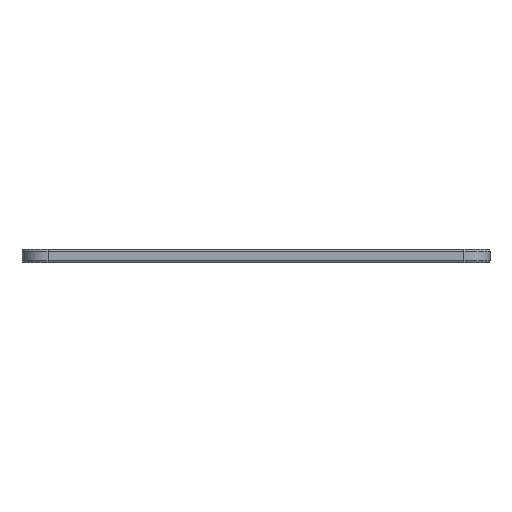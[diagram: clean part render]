
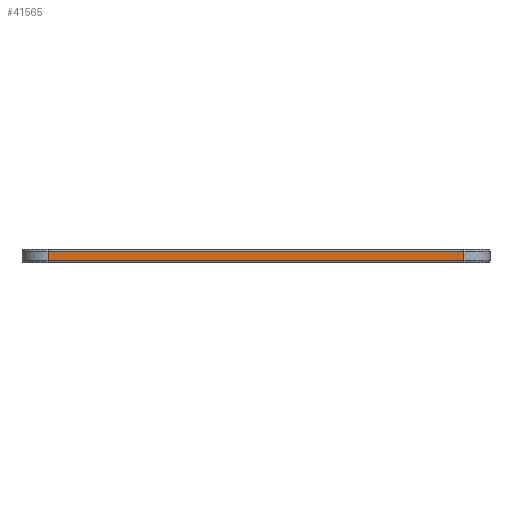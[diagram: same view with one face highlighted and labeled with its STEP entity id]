
A CAD part, front view. The second image highlights one B-rep face of the part: STEP entity #41565.
In plain terms, the highlighted planar face has unit normal (0, -1, 0).
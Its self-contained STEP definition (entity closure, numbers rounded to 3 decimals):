
#3447 = PLANE ( 'NONE',  #50552 ) ;
#6274 = EDGE_CURVE ( 'NONE', #24435, #7827, #60000, .T. ) ;
#6681 = CARTESIAN_POINT ( 'NONE',  ( 23.99, -42.8, 0.75 ) ) ;
#7827 = VERTEX_POINT ( 'NONE', #57644 ) ;
#8350 = LINE ( 'NONE', #51186, #44888 ) ;
#9846 = VECTOR ( 'NONE', #63839, 1000. ) ;
#11017 = DIRECTION ( 'NONE',  ( 1., 0., 0. ) ) ;
#16191 = VECTOR ( 'NONE', #21701, 1000. ) ;
#16434 = CARTESIAN_POINT ( 'NONE',  ( -23.99, -42.8, 0.75 ) ) ;
#18349 = VERTEX_POINT ( 'NONE', #39786 ) ;
#20280 = CARTESIAN_POINT ( 'NONE',  ( -23.99, -42.8, -0.55 ) ) ;
#20918 = EDGE_LOOP ( 'NONE', ( #52709, #39593, #56160, #61844 ) ) ;
#21624 = VECTOR ( 'NONE', #57521, 1000. ) ;
#21701 = DIRECTION ( 'NONE',  ( 0., 0., -1. ) ) ;
#24435 = VERTEX_POINT ( 'NONE', #38619 ) ;
#24825 = EDGE_CURVE ( 'NONE', #7827, #44251, #29697, .T. ) ;
#26403 = LINE ( 'NONE', #6681, #21624 ) ;
#28208 = CARTESIAN_POINT ( 'NONE',  ( -23.99, -42.8, 0.55 ) ) ;
#28714 = DIRECTION ( 'NONE',  ( -1., 0., 0. ) ) ;
#29697 = LINE ( 'NONE', #16434, #16191 ) ;
#34451 = DIRECTION ( 'NONE',  ( 0., 1., 0. ) ) ;
#38619 = CARTESIAN_POINT ( 'NONE',  ( 23.99, -42.8, 0.55 ) ) ;
#39593 = ORIENTED_EDGE ( 'NONE', *, *, #53512, .T. ) ;
#39786 = CARTESIAN_POINT ( 'NONE',  ( 23.99, -42.8, -0.55 ) ) ;
#41565 = ADVANCED_FACE ( 'NONE', ( #46579 ), #3447, .F. ) ;
#44251 = VERTEX_POINT ( 'NONE', #20280 ) ;
#44888 = VECTOR ( 'NONE', #11017, 1000. ) ;
#46579 = FACE_OUTER_BOUND ( 'NONE', #20918, .T. ) ;
#46892 = EDGE_CURVE ( 'NONE', #18349, #24435, #26403, .T. ) ;
#50552 = AXIS2_PLACEMENT_3D ( 'NONE', #54708, #34451, #28714 ) ;
#51186 = CARTESIAN_POINT ( 'NONE',  ( -26.99, -42.8, -0.55 ) ) ;
#52709 = ORIENTED_EDGE ( 'NONE', *, *, #24825, .T. ) ;
#53512 = EDGE_CURVE ( 'NONE', #44251, #18349, #8350, .T. ) ;
#54708 = CARTESIAN_POINT ( 'NONE',  ( -26.99, -42.8, 0.75 ) ) ;
#56160 = ORIENTED_EDGE ( 'NONE', *, *, #46892, .T. ) ;
#57521 = DIRECTION ( 'NONE',  ( 0., 0., 1. ) ) ;
#57644 = CARTESIAN_POINT ( 'NONE',  ( -23.99, -42.8, 0.55 ) ) ;
#60000 = LINE ( 'NONE', #28208, #9846 ) ;
#61844 = ORIENTED_EDGE ( 'NONE', *, *, #6274, .T. ) ;
#63839 = DIRECTION ( 'NONE',  ( -1., 0., 0. ) ) ;
